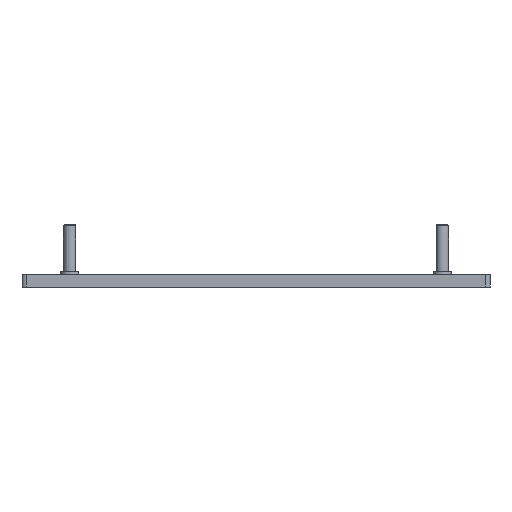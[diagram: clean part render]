
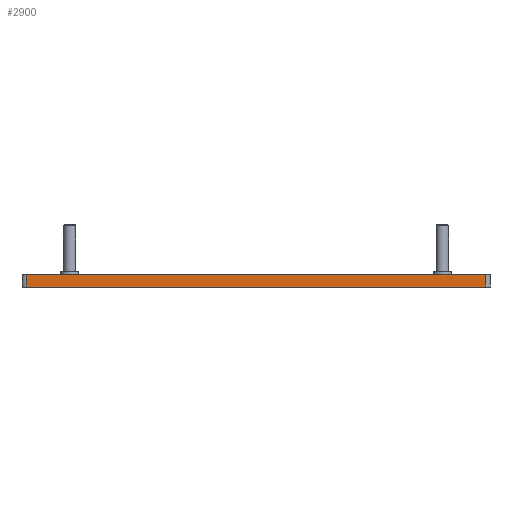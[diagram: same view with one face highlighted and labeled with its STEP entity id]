
A CAD part, front view. The second image highlights one B-rep face of the part: STEP entity #2900.
In plain terms, the highlighted planar face has unit normal (0, -1, 0).
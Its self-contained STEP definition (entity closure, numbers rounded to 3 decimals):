
#56=PLANE('',#3094);
#260=FACE_OUTER_BOUND('',#418,.T.);
#418=EDGE_LOOP('',(#2027,#2028,#2029,#2030));
#599=LINE('',#4272,#867);
#613=LINE('',#4329,#881);
#614=LINE('',#4332,#882);
#615=LINE('',#4333,#883);
#867=VECTOR('',#3392,10.);
#881=VECTOR('',#3442,10.);
#882=VECTOR('',#3445,10.);
#883=VECTOR('',#3446,10.);
#1290=VERTEX_POINT('',#4269);
#1291=VERTEX_POINT('',#4271);
#1315=VERTEX_POINT('',#4325);
#1317=VERTEX_POINT('',#4331);
#1571=EDGE_CURVE('',#1290,#1291,#599,.T.);
#1600=EDGE_CURVE('',#1291,#1315,#613,.T.);
#1601=EDGE_CURVE('',#1317,#1290,#614,.T.);
#1602=EDGE_CURVE('',#1317,#1315,#615,.T.);
#2027=ORIENTED_EDGE('',*,*,#1600,.F.);
#2028=ORIENTED_EDGE('',*,*,#1571,.F.);
#2029=ORIENTED_EDGE('',*,*,#1601,.F.);
#2030=ORIENTED_EDGE('',*,*,#1602,.T.);
#2900=ADVANCED_FACE('',(#260),#56,.T.);
#3094=AXIS2_PLACEMENT_3D('',#4330,#3443,#3444);
#3392=DIRECTION('',(1.,0.,0.));
#3442=DIRECTION('',(0.,0.,-1.));
#3443=DIRECTION('center_axis',(0.,-1.,0.));
#3444=DIRECTION('ref_axis',(-1.,0.,0.));
#3445=DIRECTION('',(0.,0.,1.));
#3446=DIRECTION('',(1.,0.,0.));
#4269=CARTESIAN_POINT('',(-55.498,-93.5,0.));
#4271=CARTESIAN_POINT('',(55.502,-93.5,0.));
#4272=CARTESIAN_POINT('',(-56.498,-93.5,0.));
#4325=CARTESIAN_POINT('',(55.502,-93.5,-3.));
#4329=CARTESIAN_POINT('',(55.502,-93.5,0.));
#4330=CARTESIAN_POINT('Origin',(56.502,-93.5,0.));
#4331=CARTESIAN_POINT('',(-55.498,-93.5,-3.));
#4332=CARTESIAN_POINT('',(-55.498,-93.5,0.));
#4333=CARTESIAN_POINT('',(28.252,-93.5,-3.));
